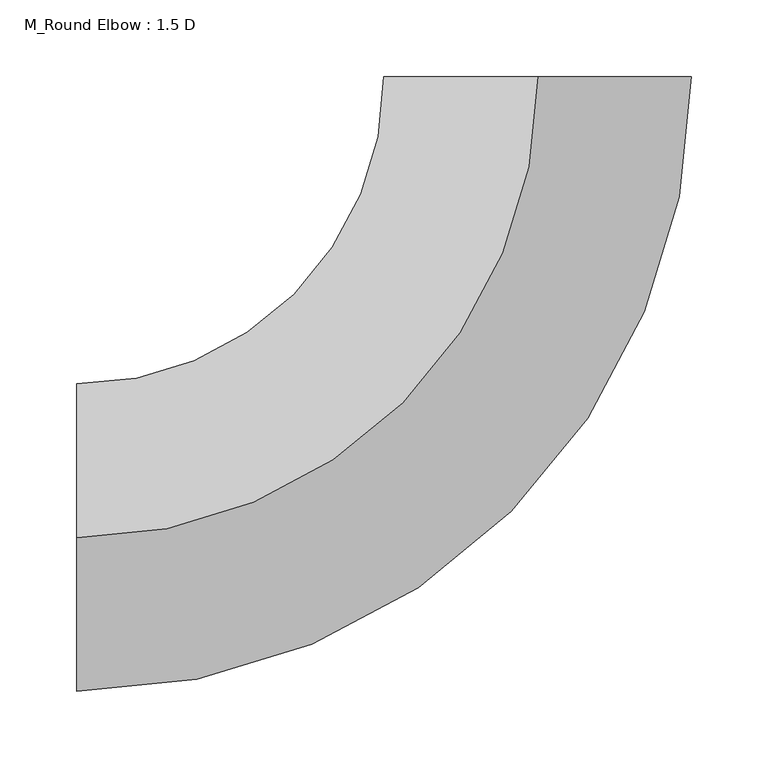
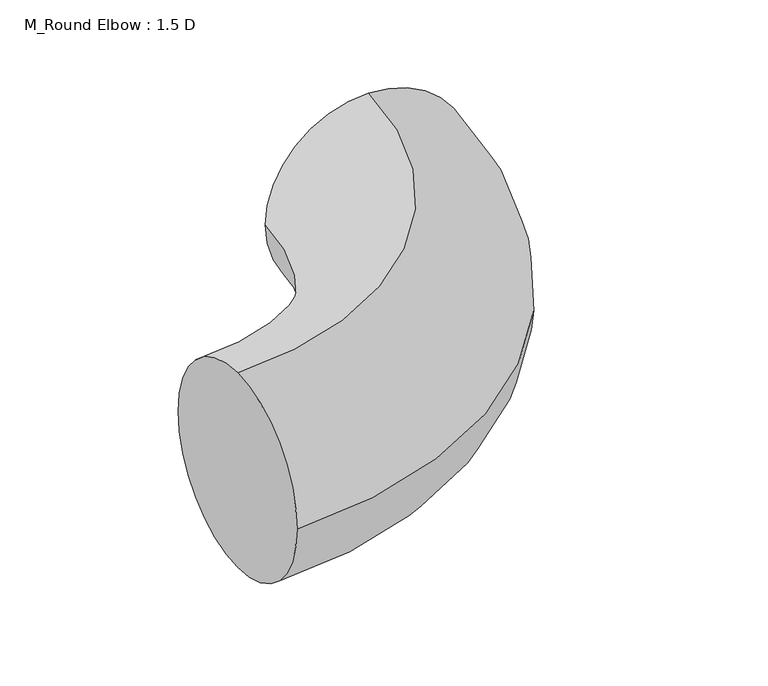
"""IFC4 building model written with IfcOpenShell, lengths in millimetres: duct fitting geometry, M_Round Elbow : 1.5 D."""

from ifc_helpers import new_model, si_unit, point, frame, origin, place, context, project, spatial, circle_curve, ellipse_curve, trimmed, source, transform, mapped, element, save
from ifc_brep_helpers import plane_surface, revolved_surface, advanced_brep


def m_round_elbow_1_5_d_dbf6cddc(model_context):
    return source(origin(), model_context, "Body", "AdvancedBrep", [
        advanced_brep(
        [(-299.9929116, 0.0, 100.0), (-299.9929116, 100.0, 0.0), (-299.9929116, 0.0, -100.0), (-299.9929116, -100.0, 0.0), (0.0070883, 299.9929116, 100.0), (100.0070882, 299.9905487, 0.0), (0.0070883, 299.9929116, -100.0), (-99.9929117, 299.9952744, 0.0)],
        [
            (0, 1, circle_curve(frame((-299.9929116, 0.0, 0.0), z_axis=(-1.0, 0.0, 0.0), x_axis=(0.0, 1.0, 0.0)), 100.0)),
            (1, 2, circle_curve(frame((-299.9929116, 0.0, 0.0), z_axis=(-1.0, 0.0, 0.0), x_axis=(0.0, 1.0, 0.0)), 100.0)),
            (2, 3, circle_curve(frame((-299.9929116, 0.0, 0.0), z_axis=(-1.0, 0.0, 0.0), x_axis=(0.0, 1.0, 0.0)), 100.0)),
            (3, 0, circle_curve(frame((-299.9929116, 0.0, 0.0), z_axis=(-1.0, 0.0, 0.0), x_axis=(0.0, 1.0, 0.0)), 100.0)),
            (4, 5, circle_curve(frame((0.0070883, 299.9929116, 0.0), z_axis=(2.3628141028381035e-05, 0.9999999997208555, 0.0), x_axis=(-0.9999999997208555, 2.3628141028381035e-05, 0.0)), 100.0)),
            (5, 6, circle_curve(frame((0.0070883, 299.9929116, 0.0), z_axis=(2.3628141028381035e-05, 0.9999999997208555, 0.0), x_axis=(-0.9999999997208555, 2.3628141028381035e-05, 0.0)), 100.0)),
            (6, 7, circle_curve(frame((0.0070883, 299.9929116, 0.0), z_axis=(2.3628141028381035e-05, 0.9999999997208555, 0.0), x_axis=(-0.9999999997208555, 2.3628141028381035e-05, 0.0)), 100.0)),
            (7, 4, circle_curve(frame((0.0070883, 299.9929116, 0.0), z_axis=(2.3628141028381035e-05, 0.9999999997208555, 0.0), x_axis=(-0.9999999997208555, 2.3628141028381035e-05, 0.0)), 100.0)),
            (7, 1, circle_curve(frame((-299.9929116, 300.0, 0.0), z_axis=(0.0, 0.0, -1.0), x_axis=(0.0, -1.0, 0.0)), 200.0)),
            (0, 4, circle_curve(frame((-299.9929116, 300.0, 100.0), z_axis=(0.0, 0.0, 1.0), x_axis=(0.0, -1.0, 0.0)), 300.0)),
            (6, 2, circle_curve(frame((-299.9929116, 300.0, -100.0), z_axis=(0.0, 0.0, -1.0), x_axis=(0.0, -1.0, 0.0)), 300.0)),
            (5, 3, circle_curve(frame((-299.9929116, 300.0, 0.0), z_axis=(0.0, 0.0, -1.0), x_axis=(0.0, -1.0, 0.0)), 400.0)),
        ],
        [
            plane_surface(frame((-299.9929116, 0.0, 0.0), z_axis=(-1.0, 0.0, 0.0), x_axis=(0.0, 0.0, 1.0))),
            plane_surface(frame((0.0070883, 299.9929116, 0.0), z_axis=(2.3628141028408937e-05, 0.9999999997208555, 0.0), x_axis=(0.0, 0.0, 1.0))),
            revolved_surface(trimmed(ellipse_curve(frame((-299.9929116, 0.0, 0.0), z_axis=(-1.0, 0.0, 0.0), x_axis=(0.0, 1.0, 0.0)), 100.0, 100.0), [point((-299.9929116, 0.0, 100.0))], [point((-299.9929116, 100.0, 0.0))], True, "CARTESIAN"), (-299.9929116, 300.0, 0.0), (0.0, 0.0, 1.0)),
            revolved_surface(trimmed(ellipse_curve(frame((-299.9929116, 0.0, 0.0), z_axis=(-1.0, 0.0, 0.0), x_axis=(0.0, 1.0, 0.0)), 100.0, 100.0), [point((-299.9929116, 100.0, 0.0))], [point((-299.9929116, 0.0, -100.0))], True, "CARTESIAN"), (-299.9929116, 300.0, 0.0), (0.0, 0.0, 1.0)),
            revolved_surface(trimmed(ellipse_curve(frame((-299.9929116, 0.0, 0.0), z_axis=(-1.0, 0.0, 0.0), x_axis=(0.0, 1.0, 0.0)), 100.0, 100.0), [point((-299.9929116, 0.0, -100.0))], [point((-299.9929116, -100.0, 0.0))], True, "CARTESIAN"), (-299.9929116, 300.0, 0.0), (0.0, 0.0, 1.0)),
            revolved_surface(trimmed(ellipse_curve(frame((-299.9929116, 0.0, 0.0), z_axis=(-1.0, 0.0, 0.0), x_axis=(0.0, 1.0, 0.0)), 100.0, 100.0), [point((-299.9929116, -100.0, 0.0))], [point((-299.9929116, 0.0, 100.0))], True, "CARTESIAN"), (-299.9929116, 300.0, 0.0), (0.0, 0.0, 1.0)),
        ],
        [
            (0, [[1, 2, 3, 4]]),
            (1, [[5, 6, 7, 8]]),
            (2, [[9, -1, 10, -8]]),
            (3, [[11, -2, -9, -7]]),
            (4, [[12, -3, -11, -6]]),
            (5, [[-10, -4, -12, -5]]),
        ],
    ),
        advanced_brep(
        [(-299.9929116, 0.0, 100.0), (-299.9929116, 100.0, 0.0), (-299.9929116, 0.0, -100.0), (-299.9929116, -100.0, 0.0), (0.0070883, 299.9929116, 100.0), (100.0070882, 299.9905487, 0.0), (0.0070883, 299.9929116, -100.0), (-99.9929117, 299.9952744, 0.0)],
        [
            (0, 1, circle_curve(frame((-299.9929116, 0.0, 0.0), z_axis=(-1.0, 0.0, 0.0), x_axis=(0.0, 1.0, 0.0)), 100.0)),
            (1, 2, circle_curve(frame((-299.9929116, 0.0, 0.0), z_axis=(-1.0, 0.0, 0.0), x_axis=(0.0, 1.0, 0.0)), 100.0)),
            (2, 3, circle_curve(frame((-299.9929116, 0.0, 0.0), z_axis=(-1.0, 0.0, 0.0), x_axis=(0.0, 1.0, 0.0)), 100.0)),
            (3, 0, circle_curve(frame((-299.9929116, 0.0, 0.0), z_axis=(-1.0, 0.0, 0.0), x_axis=(0.0, 1.0, 0.0)), 100.0)),
            (4, 5, circle_curve(frame((0.0070883, 299.9929116, 0.0), z_axis=(2.3628141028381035e-05, 0.9999999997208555, 0.0), x_axis=(-0.9999999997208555, 2.3628141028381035e-05, 0.0)), 100.0)),
            (5, 6, circle_curve(frame((0.0070883, 299.9929116, 0.0), z_axis=(2.3628141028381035e-05, 0.9999999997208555, 0.0), x_axis=(-0.9999999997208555, 2.3628141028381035e-05, 0.0)), 100.0)),
            (6, 7, circle_curve(frame((0.0070883, 299.9929116, 0.0), z_axis=(2.3628141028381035e-05, 0.9999999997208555, 0.0), x_axis=(-0.9999999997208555, 2.3628141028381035e-05, 0.0)), 100.0)),
            (7, 4, circle_curve(frame((0.0070883, 299.9929116, 0.0), z_axis=(2.3628141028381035e-05, 0.9999999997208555, 0.0), x_axis=(-0.9999999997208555, 2.3628141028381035e-05, 0.0)), 100.0)),
            (7, 1, circle_curve(frame((-299.9929116, 300.0, 0.0), z_axis=(0.0, 0.0, -1.0), x_axis=(0.0, -1.0, 0.0)), 200.0)),
            (0, 4, circle_curve(frame((-299.9929116, 300.0, 100.0), z_axis=(0.0, 0.0, 1.0), x_axis=(0.0, -1.0, 0.0)), 300.0)),
            (6, 2, circle_curve(frame((-299.9929116, 300.0, -100.0), z_axis=(0.0, 0.0, -1.0), x_axis=(0.0, -1.0, 0.0)), 300.0)),
            (5, 3, circle_curve(frame((-299.9929116, 300.0, 0.0), z_axis=(0.0, 0.0, -1.0), x_axis=(0.0, -1.0, 0.0)), 400.0)),
        ],
        [
            plane_surface(frame((-299.9929116, 0.0, 0.0), z_axis=(-1.0, 0.0, 0.0), x_axis=(0.0, 0.0, 1.0))),
            plane_surface(frame((0.0070883, 299.9929116, 0.0), z_axis=(2.3628141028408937e-05, 0.9999999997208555, 0.0), x_axis=(0.0, 0.0, 1.0))),
            revolved_surface(trimmed(ellipse_curve(frame((-299.9929116, 0.0, 0.0), z_axis=(-1.0, 0.0, 0.0), x_axis=(0.0, 1.0, 0.0)), 100.0, 100.0), [point((-299.9929116, 0.0, 100.0))], [point((-299.9929116, 100.0, 0.0))], True, "CARTESIAN"), (-299.9929116, 300.0, 0.0), (0.0, 0.0, 1.0)),
            revolved_surface(trimmed(ellipse_curve(frame((-299.9929116, 0.0, 0.0), z_axis=(-1.0, 0.0, 0.0), x_axis=(0.0, 1.0, 0.0)), 100.0, 100.0), [point((-299.9929116, 100.0, 0.0))], [point((-299.9929116, 0.0, -100.0))], True, "CARTESIAN"), (-299.9929116, 300.0, 0.0), (0.0, 0.0, 1.0)),
            revolved_surface(trimmed(ellipse_curve(frame((-299.9929116, 0.0, 0.0), z_axis=(-1.0, 0.0, 0.0), x_axis=(0.0, 1.0, 0.0)), 100.0, 100.0), [point((-299.9929116, 0.0, -100.0))], [point((-299.9929116, -100.0, 0.0))], True, "CARTESIAN"), (-299.9929116, 300.0, 0.0), (0.0, 0.0, 1.0)),
            revolved_surface(trimmed(ellipse_curve(frame((-299.9929116, 0.0, 0.0), z_axis=(-1.0, 0.0, 0.0), x_axis=(0.0, 1.0, 0.0)), 100.0, 100.0), [point((-299.9929116, -100.0, 0.0))], [point((-299.9929116, 0.0, 100.0))], True, "CARTESIAN"), (-299.9929116, 300.0, 0.0), (0.0, 0.0, 1.0)),
        ],
        [
            (0, [[1, 2, 3, 4]]),
            (1, [[5, 6, 7, 8]]),
            (2, [[9, -1, 10, -8]]),
            (3, [[11, -2, -9, -7]]),
            (4, [[12, -3, -11, -6]]),
            (5, [[-10, -4, -12, -5]]),
        ],
    ),
        advanced_brep(
        [(-299.9929116, 0.0, 100.0), (-299.9929116, 100.0, 0.0), (-299.9929116, 0.0, -100.0), (-299.9929116, -100.0, 0.0), (0.0070883, 299.9929116, 100.0), (100.0070882, 299.9905487, 0.0), (0.0070883, 299.9929116, -100.0), (-99.9929117, 299.9952744, 0.0)],
        [
            (0, 1, circle_curve(frame((-299.9929116, 0.0, 0.0), z_axis=(-1.0, 0.0, 0.0), x_axis=(0.0, 1.0, 0.0)), 100.0)),
            (1, 2, circle_curve(frame((-299.9929116, 0.0, 0.0), z_axis=(-1.0, 0.0, 0.0), x_axis=(0.0, 1.0, 0.0)), 100.0)),
            (2, 3, circle_curve(frame((-299.9929116, 0.0, 0.0), z_axis=(-1.0, 0.0, 0.0), x_axis=(0.0, 1.0, 0.0)), 100.0)),
            (3, 0, circle_curve(frame((-299.9929116, 0.0, 0.0), z_axis=(-1.0, 0.0, 0.0), x_axis=(0.0, 1.0, 0.0)), 100.0)),
            (4, 5, circle_curve(frame((0.0070883, 299.9929116, 0.0), z_axis=(2.3628141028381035e-05, 0.9999999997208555, 0.0), x_axis=(-0.9999999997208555, 2.3628141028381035e-05, 0.0)), 100.0)),
            (5, 6, circle_curve(frame((0.0070883, 299.9929116, 0.0), z_axis=(2.3628141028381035e-05, 0.9999999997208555, 0.0), x_axis=(-0.9999999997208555, 2.3628141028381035e-05, 0.0)), 100.0)),
            (6, 7, circle_curve(frame((0.0070883, 299.9929116, 0.0), z_axis=(2.3628141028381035e-05, 0.9999999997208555, 0.0), x_axis=(-0.9999999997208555, 2.3628141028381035e-05, 0.0)), 100.0)),
            (7, 4, circle_curve(frame((0.0070883, 299.9929116, 0.0), z_axis=(2.3628141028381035e-05, 0.9999999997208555, 0.0), x_axis=(-0.9999999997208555, 2.3628141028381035e-05, 0.0)), 100.0)),
            (7, 1, circle_curve(frame((-299.9929116, 300.0, 0.0), z_axis=(0.0, 0.0, -1.0), x_axis=(0.0, -1.0, 0.0)), 200.0)),
            (0, 4, circle_curve(frame((-299.9929116, 300.0, 100.0), z_axis=(0.0, 0.0, 1.0), x_axis=(0.0, -1.0, 0.0)), 300.0)),
            (6, 2, circle_curve(frame((-299.9929116, 300.0, -100.0), z_axis=(0.0, 0.0, -1.0), x_axis=(0.0, -1.0, 0.0)), 300.0)),
            (5, 3, circle_curve(frame((-299.9929116, 300.0, 0.0), z_axis=(0.0, 0.0, -1.0), x_axis=(0.0, -1.0, 0.0)), 400.0)),
        ],
        [
            plane_surface(frame((-299.9929116, 0.0, 0.0), z_axis=(-1.0, 0.0, 0.0), x_axis=(0.0, 0.0, 1.0))),
            plane_surface(frame((0.0070883, 299.9929116, 0.0), z_axis=(2.3628141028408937e-05, 0.9999999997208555, 0.0), x_axis=(0.0, 0.0, 1.0))),
            revolved_surface(trimmed(ellipse_curve(frame((-299.9929116, 0.0, 0.0), z_axis=(-1.0, 0.0, 0.0), x_axis=(0.0, 1.0, 0.0)), 100.0, 100.0), [point((-299.9929116, 0.0, 100.0))], [point((-299.9929116, 100.0, 0.0))], True, "CARTESIAN"), (-299.9929116, 300.0, 0.0), (0.0, 0.0, 1.0)),
            revolved_surface(trimmed(ellipse_curve(frame((-299.9929116, 0.0, 0.0), z_axis=(-1.0, 0.0, 0.0), x_axis=(0.0, 1.0, 0.0)), 100.0, 100.0), [point((-299.9929116, 100.0, 0.0))], [point((-299.9929116, 0.0, -100.0))], True, "CARTESIAN"), (-299.9929116, 300.0, 0.0), (0.0, 0.0, 1.0)),
            revolved_surface(trimmed(ellipse_curve(frame((-299.9929116, 0.0, 0.0), z_axis=(-1.0, 0.0, 0.0), x_axis=(0.0, 1.0, 0.0)), 100.0, 100.0), [point((-299.9929116, 0.0, -100.0))], [point((-299.9929116, -100.0, 0.0))], True, "CARTESIAN"), (-299.9929116, 300.0, 0.0), (0.0, 0.0, 1.0)),
            revolved_surface(trimmed(ellipse_curve(frame((-299.9929116, 0.0, 0.0), z_axis=(-1.0, 0.0, 0.0), x_axis=(0.0, 1.0, 0.0)), 100.0, 100.0), [point((-299.9929116, -100.0, 0.0))], [point((-299.9929116, 0.0, 100.0))], True, "CARTESIAN"), (-299.9929116, 300.0, 0.0), (0.0, 0.0, 1.0)),
        ],
        [
            (0, [[1, 2, 3, 4]]),
            (1, [[5, 6, 7, 8]]),
            (2, [[9, -1, 10, -8]]),
            (3, [[11, -2, -9, -7]]),
            (4, [[12, -3, -11, -6]]),
            (5, [[-10, -4, -12, -5]]),
        ],
    ),
    ])


if __name__ == "__main__":
    model = new_model("IFC4")
    model_context = context("Model", 3, world=origin())
    ifc_project = project(units=[si_unit("LENGTHUNIT", "METRE", prefix="MILLI")], contexts=[model_context])
    site = spatial("IfcSite", under=ifc_project)
    building = spatial("IfcBuilding", under=site)
    placement = place(None, origin())
    m_round_elbow_1_5_d_shape = m_round_elbow_1_5_d_dbf6cddc(model_context)
    element("IfcDuctFitting", 1, ObjectType="M_Round Elbow : 1.5 D", at=placement, inside=building, context=model_context, shape_type="MappedRepresentation", body=[
        mapped(m_round_elbow_1_5_d_shape, transform((0.0, 0.0, 0.0), x_axis=(1.0, 0.0, 0.0), y_axis=(0.0, 1.0, 0.0), z_axis=(0.0, 0.0, 1.0))),
    ])
    save(model, "model.ifc")
